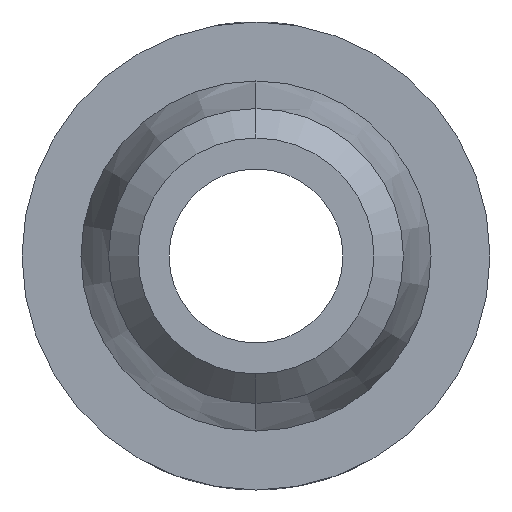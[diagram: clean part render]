
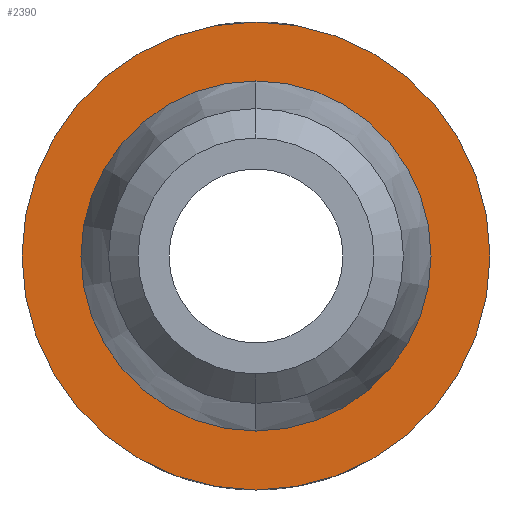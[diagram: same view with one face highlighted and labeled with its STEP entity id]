
A CAD part, left-side view. The second image highlights one B-rep face of the part: STEP entity #2390.
In plain terms, the highlighted planar face has unit normal (1, 0, 0).
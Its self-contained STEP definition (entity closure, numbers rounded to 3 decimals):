
#50=PLANE('',#2722);
#124=CIRCLE('',#2723,3.175);
#125=CIRCLE('',#2724,2.375);
#180=FACE_BOUND('',#306,.T.);
#210=FACE_OUTER_BOUND('',#305,.T.);
#305=EDGE_LOOP('',(#1950));
#306=EDGE_LOOP('',(#1951));
#1068=VERTEX_POINT('',#4623);
#1069=VERTEX_POINT('',#4625);
#1509=EDGE_CURVE('',#1068,#1068,#124,.T.);
#1510=EDGE_CURVE('',#1069,#1069,#125,.T.);
#1950=ORIENTED_EDGE('',*,*,#1509,.T.);
#1951=ORIENTED_EDGE('',*,*,#1510,.T.);
#2390=ADVANCED_FACE('',(#210,#180),#50,.T.);
#2722=AXIS2_PLACEMENT_3D('',#4622,#2982,#2983);
#2723=AXIS2_PLACEMENT_3D('',#4624,#2984,#2985);
#2724=AXIS2_PLACEMENT_3D('',#4626,#2986,#2987);
#2982=DIRECTION('center_axis',(1.,0.,0.));
#2983=DIRECTION('ref_axis',(0.,0.,-1.));
#2984=DIRECTION('center_axis',(1.,0.,0.));
#2985=DIRECTION('ref_axis',(0.,0.,-1.));
#2986=DIRECTION('center_axis',(-1.,0.,0.));
#2987=DIRECTION('ref_axis',(0.,0.,
-1.));
#4622=CARTESIAN_POINT('Origin',(-4.5,-3.213,0.));
#4623=CARTESIAN_POINT('',(-4.5,0.,3.175));
#4624=CARTESIAN_POINT('Origin',(-4.5,0.,0.));
#4625=CARTESIAN_POINT('',(-4.5,0.,2.375));
#4626=CARTESIAN_POINT('Origin',(-4.5,0.,0.));
